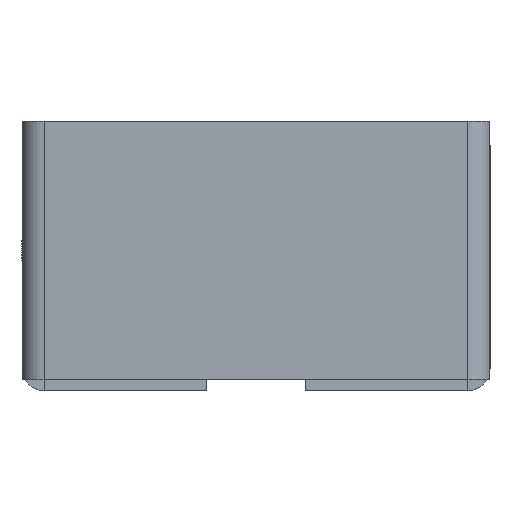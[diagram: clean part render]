
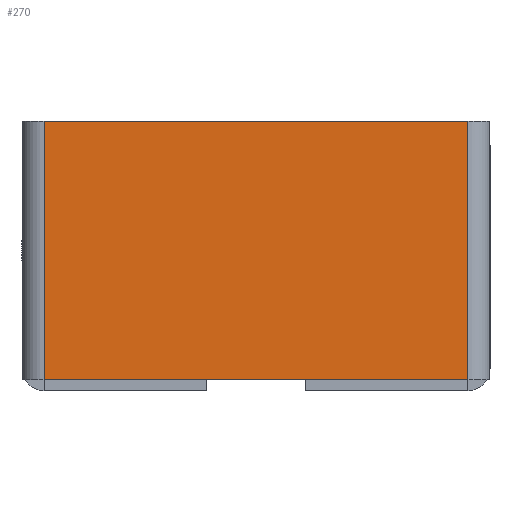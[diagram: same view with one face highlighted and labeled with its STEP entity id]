
A CAD part, front view. The second image highlights one B-rep face of the part: STEP entity #270.
In plain terms, the highlighted planar face has unit normal (0, -1, 0).
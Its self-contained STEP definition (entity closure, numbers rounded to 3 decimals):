
#150 = VECTOR ( 'NONE', #1121, 1000. ) ;
#174 = LINE ( 'NONE', #8896, #1765 ) ;
#270 = ADVANCED_FACE ( 'NONE', ( #6111 ), #10267, .F. ) ;
#754 = LINE ( 'NONE', #4206, #150 ) ;
#1119 = CARTESIAN_POINT ( 'NONE',  ( 47.5, -2.5, -58. ) ) ;
#1121 = DIRECTION ( 'NONE',  ( 1., 0., 0. ) ) ;
#1330 = EDGE_LOOP ( 'NONE', ( #4345, #5159, #1764, #6514 ) ) ;
#1764 = ORIENTED_EDGE ( 'NONE', *, *, #7472, .T. ) ;
#1765 = VECTOR ( 'NONE', #3986, 1000. ) ;
#2480 = CARTESIAN_POINT ( 'NONE',  ( 47.5, -2.5, -58. ) ) ;
#2735 = LINE ( 'NONE', #7701, #5111 ) ;
#3263 = CARTESIAN_POINT ( 'NONE',  ( 0., -2.5, 0. ) ) ;
#3581 = CARTESIAN_POINT ( 'NONE',  ( 47.5, -2.5, 0. ) ) ;
#3685 = AXIS2_PLACEMENT_3D ( 'NONE', #3263, #3949, #4064 ) ;
#3949 = DIRECTION ( 'NONE',  ( 0., 1., 0. ) ) ;
#3986 = DIRECTION ( 'NONE',  ( 0., 0., -1. ) ) ;
#4064 = DIRECTION ( 'NONE',  ( 0., 0., 1. ) ) ;
#4206 = CARTESIAN_POINT ( 'NONE',  ( -50., -2.5, 0. ) ) ;
#4345 = ORIENTED_EDGE ( 'NONE', *, *, #5103, .T. ) ;
#4476 = CARTESIAN_POINT ( 'NONE',  ( -47.5, -2.5, -58. ) ) ;
#5103 = EDGE_CURVE ( 'NONE', #9958, #9236, #174, .T. ) ;
#5111 = VECTOR ( 'NONE', #8532, 1000. ) ;
#5159 = ORIENTED_EDGE ( 'NONE', *, *, #6034, .F. ) ;
#5875 = EDGE_CURVE ( 'NONE', #9958, #7989, #754, .T. ) ;
#6034 = EDGE_CURVE ( 'NONE', #7765, #9236, #2735, .T. ) ;
#6111 = FACE_OUTER_BOUND ( 'NONE', #1330, .T. ) ;
#6514 = ORIENTED_EDGE ( 'NONE', *, *, #5875, .F. ) ;
#7472 = EDGE_CURVE ( 'NONE', #7765, #7989, #9212, .T. ) ;
#7596 = VECTOR ( 'NONE', #8360, 1000. ) ;
#7701 = CARTESIAN_POINT ( 'NONE',  ( -50., -2.5, -58. ) ) ;
#7765 = VERTEX_POINT ( 'NONE', #2480 ) ;
#7779 = CARTESIAN_POINT ( 'NONE',  ( -47.5, -2.5, 0. ) ) ;
#7989 = VERTEX_POINT ( 'NONE', #3581 ) ;
#8360 = DIRECTION ( 'NONE',  ( 0., 0., 1. ) ) ;
#8532 = DIRECTION ( 'NONE',  ( -1., 0., 0. ) ) ;
#8896 = CARTESIAN_POINT ( 'NONE',  ( -47.5, -2.5, 0. ) ) ;
#9212 = LINE ( 'NONE', #1119, #7596 ) ;
#9236 = VERTEX_POINT ( 'NONE', #4476 ) ;
#9958 = VERTEX_POINT ( 'NONE', #7779 ) ;
#10267 = PLANE ( 'NONE',  #3685 ) ;
